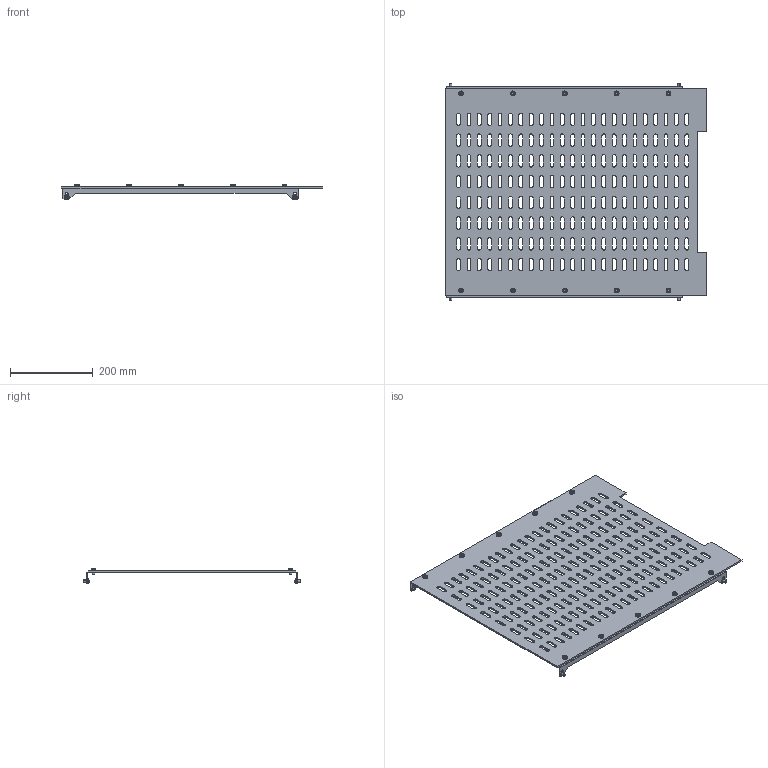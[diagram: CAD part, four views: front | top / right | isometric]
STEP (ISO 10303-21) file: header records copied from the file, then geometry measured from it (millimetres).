
FILE_DESCRIPTION (( 'STEP AP214' ), '1' );
FILE_NAME ('FO-00-3BDW-060-060 Êîìïëåêò ñåêöèîíèðîâàíèÿ 3b äëÿ ARMAT ACB òèïîðàçìåð D âûêàòíîãî èñïîëíåíèÿ 3P 600õ600 â øêàô ãëóáèíîé 1000 ìì.STEP', '2025-08-12T07:13:43', ( '' ), ( '' ), 'SwSTEP 2.0', 'SolidWorks 2023', '' );
FILE_SCHEMA (( 'AUTOMOTIVE_DESIGN' ));
Length unit declared in the file: millimetre
Products named in the file (3): Комплект секционирования 3b для ARMAT ACB типоразмер D выкатного исполнения 3P 600х600 в шкаф глубиной 1000 мм; FO-00-3BDW-060-060 Комплект секционирования 3b для ARMAT ACB типоразмер D выкатного исполнения 3P 600х600 в шкаф глубиной 1000 мм; 2хМ6х10
Assembly tree (3 placements, depth 2):
  FO-00-3BDW-060-060 Комплект секционирования 3b для ARMAT ACB типоразмер D выкатного исполнения 3P 600х600 в шкаф глубиной 1000 мм
    Комплект секционирования 3b для ARMAT ACB типоразмер D выкатного исполнения 3P 600х600 в шкаф глубиной 1000 мм
    2хМ6х10  x2
Bounding box: 630 x 525 x 37 mm (x, y, z)
Volume: 1121363.8 mm3; surface area: 630034.1 mm2
Topology: 5 solids, 15 shells, 1278 faces, 3534 edges, 2320 vertices
Faces by surface type: cylinder 686, plane 488, cone 48, torus 48, sphere 8
Entity records: 40477 total; most frequent: DIRECTION 7220, CARTESIAN_POINT 6990, ORIENTED_EDGE 6792, EDGE_CURVE 3396, AXIS2_PLACEMENT_3D 2630, VERTEX_POINT 2232, VECTOR 1960, LINE 1960
